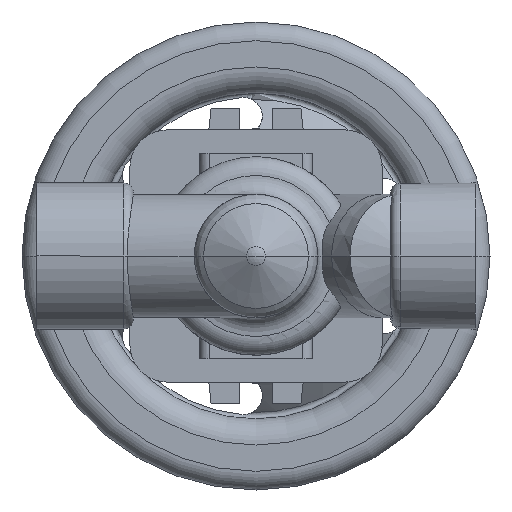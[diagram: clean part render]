
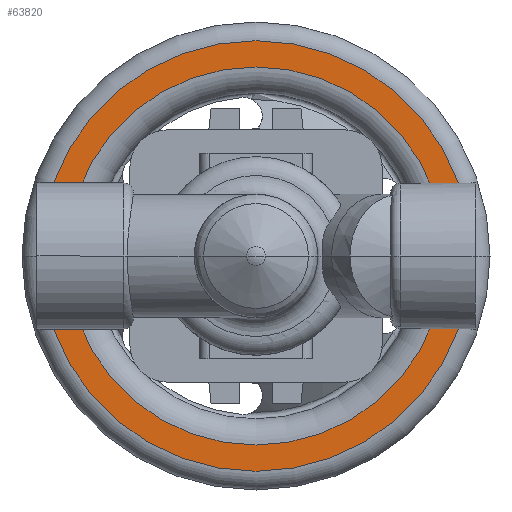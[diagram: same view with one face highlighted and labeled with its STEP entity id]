
A CAD part, front view. The second image highlights one B-rep face of the part: STEP entity #63820.
In plain terms, the highlighted planar face has unit normal (0, -1, 0).
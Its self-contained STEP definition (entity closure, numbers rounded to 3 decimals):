
#63210=CARTESIAN_POINT('',(116.,204.8,0.));
#63220=VERTEX_POINT('',#63210);
#63250=CARTESIAN_POINT('',(58.5,204.8,0.));
#63260=DIRECTION('',(0.,1.,0.));
#63270=DIRECTION('',(-1.,0.,0.));
#63280=AXIS2_PLACEMENT_3D('',#63250,#63260,#63270);
#63290=CIRCLE('',#63280,57.5);
#63300=CARTESIAN_POINT('',(1.,204.8,0.));
#63310=VERTEX_POINT('',#63300);
#63320=EDGE_CURVE('',#63310,#63220,#63290,.T.);
#63530=CARTESIAN_POINT('',(4.5,204.8,0.));
#63540=DIRECTION('',(0.,-1.,0.));
#63550=DIRECTION('',(1.,0.,0.));
#63560=AXIS2_PLACEMENT_3D('',#63530,#63540,#63550);
#63570=PLANE('',#63560);
#63580=ORIENTED_EDGE('',*,*,#63320,.F.);
#63590=EDGE_CURVE('',#63220,#63310,#63290,.T.);
#63600=ORIENTED_EDGE('',*,*,#63590,.F.);
#63610=EDGE_LOOP('',(#63600,#63580));
#63620=FACE_OUTER_BOUND('',#63610,.T.);
#63630=CARTESIAN_POINT('',(58.5,204.8,0.));
#63640=DIRECTION('',(0.,1.,0.));
#63650=DIRECTION('',(-1.,0.,0.));
#63660=AXIS2_PLACEMENT_3D('',#63630,#63640,#63650);
#63670=CIRCLE('',#63660,50.5);
#63680=CARTESIAN_POINT('',(8.,204.8,0.));
#63690=VERTEX_POINT('',#63680);
#63700=CARTESIAN_POINT('',(109.,204.8,0.));
#63710=VERTEX_POINT('',#63700);
#63720=EDGE_CURVE('',#63690,#63710,#63670,.T.);
#63730=ORIENTED_EDGE('',*,*,#63720,.T.);
#63740=CARTESIAN_POINT('',(58.5,204.8,-50.5));
#63750=VERTEX_POINT('',#63740);
#63760=EDGE_CURVE('',#63750,#63690,#63670,.T.);
#63770=ORIENTED_EDGE('',*,*,#63760,.T.);
#63780=EDGE_CURVE('',#63710,#63750,#63670,.T.);
#63790=ORIENTED_EDGE('',*,*,#63780,.T.);
#63800=EDGE_LOOP('',(#63790,#63770,#63730));
#63810=FACE_BOUND('',#63800,.T.);
#63820=ADVANCED_FACE('',(#63620,#63810),#63570,.T.);
